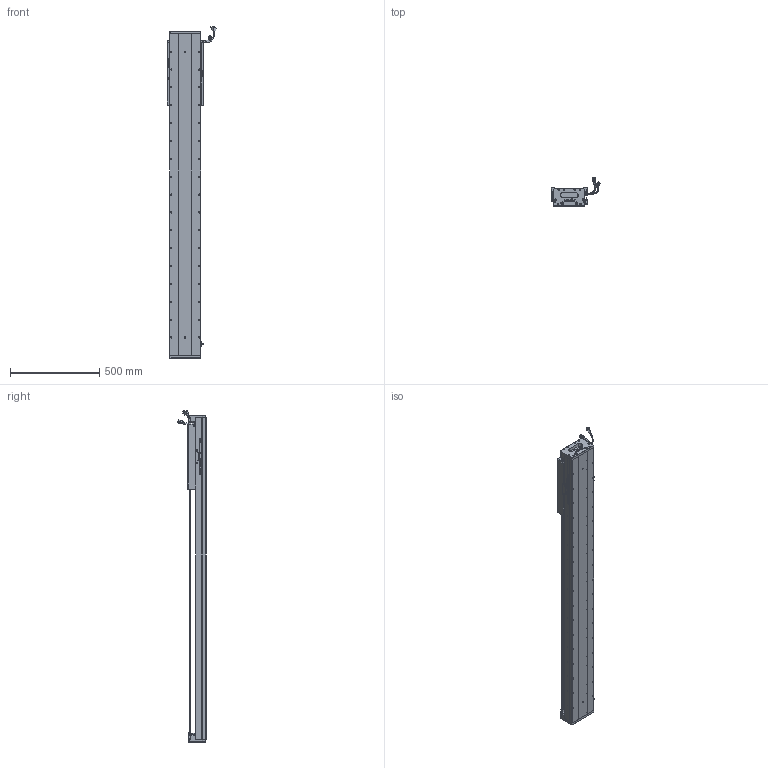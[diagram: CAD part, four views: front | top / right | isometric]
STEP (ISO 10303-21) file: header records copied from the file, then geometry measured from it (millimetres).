
FILE_DESCRIPTION (( 'STEP AP203' ), '1' );
FILE_NAME ('Z5-RY170D-1-L500-B-K.SLDASM_1350.step', '2021-05-18T00:40:40', ( '盈信电脑' ), ( '东莞市道滘镇水果街19号' ), 'SwSTEP 2.0', 'SolidWorks 2016', '' );
FILE_SCHEMA (( 'CONFIG_CONTROL_DESIGN' ));
Length unit declared in the file: millimetre
Products named in the file (36): 080黍杅芛假蚾釱21遴; 覜茼ん672; RY170直线电机感应器672光电感应片; SCREW-M1.6-2; 140蚥薯蝶輸; Z-RY170詩湍狟揤裔; LABEL; Z-RY170詩湍奻揤裔; COVER-Part-1; SCALE-Part-2; SCREW-M1.7; Z5-RY170-L500耀郪菁釱_1350; SCREW-M1.6; Z-170詩湍傷裔啣; SCREW-M1.7-1; 140雄赽晤鎢ん堤盄; Z5-RY170臏賑輸(21遴); SEAL-Part-1; Z5-RY170D-1-L500-B-K.SLDASM_1350; SCALE-Part-1; 榋妏寠巭燃_暯_M2_2; 170-Z-臏賑輸盄裔(21遴); SCREW-M1.6-1; HARNESS; COVER; PBU_SHEET; HARNESS-Part-1; SCALE; LABEL-Part-1; SEAL; PSLH080_PSLF2; HOLDER0; SHIELDPLATE; SCREW-M1.6-3; HARNESS-Part-2; Z5-RY170-L500詩湍145mm遵_1350
Assembly tree (41 placements, depth 4):
  Z5-RY170D-1-L500-B-K.SLDASM_1350
    Z5-RY170-L500耀郪菁釱_1350
    RY170直线电机感应器672光电感应片
    Z5-RY170臏賑輸(21遴)
    覜茼ん672  x3
    PSLH080_PSLF2
      SCALE
        SCALE-Part-1
        SCALE-Part-2
      HARNESS
        HARNESS-Part-1
        HARNESS-Part-2
      LABEL
        LABEL-Part-1
      COVER
        COVER-Part-1
      SEAL
        SEAL-Part-1
      榋妏寠巭燃_暯_M2_2
      SHIELDPLATE
      SCREW-M1.7
      SCREW-M1.7-1
      PBU_SHEET
      SCREW-M1.6
      SCREW-M1.6-1
      SCREW-M1.6-2
      SCREW-M1.6-3
      HOLDER0
    080黍杅芛假蚾釱21遴
    Z5-RY170-L500詩湍145mm遵_1350
    Z-170詩湍傷裔啣  x2
    Z-RY170詩湍奻揤裔  x2
    Z-RY170詩湍狟揤裔  x2
    140蚥薯蝶輸  x2
    170-Z-臏賑輸盄裔(21遴)
    140雄赽晤鎢ん堤盄
Bounding box: 275.33 x 158.11 x 1858.72 mm (x, y, z)
Volume: 10305846 mm3; surface area: 2451387.3 mm2
Topology: 36 solids, 36 shells, 3616 faces, 9833 edges, 6157 vertices
Faces by surface type: cylinder 1752, plane 1250, cone 492, torus 69, bspline 53
Entity records: 109965 total; most frequent: CARTESIAN_POINT 29092, ORIENTED_EDGE 16302, DIRECTION 15731, EDGE_CURVE 8151, AXIS2_PLACEMENT_3D 5810, VERTEX_POINT 5275, LINE 4111, VECTOR 4111
